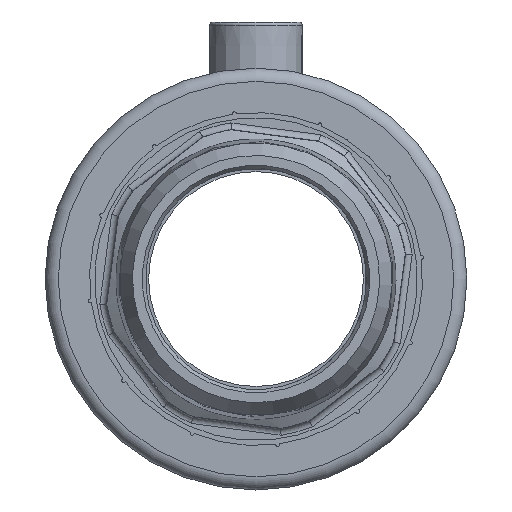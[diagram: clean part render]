
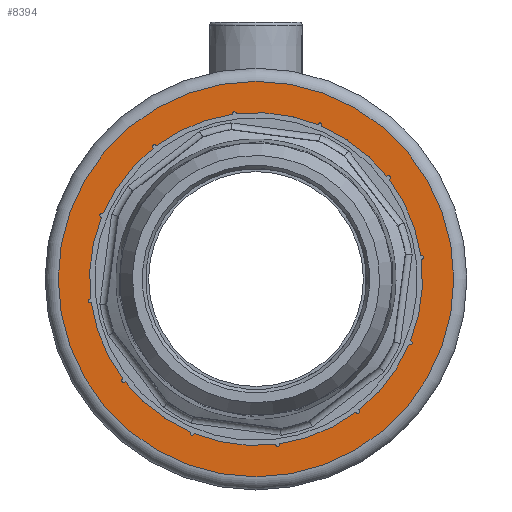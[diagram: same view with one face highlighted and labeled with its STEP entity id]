
A CAD part, left-side view. The second image highlights one B-rep face of the part: STEP entity #8394.
In plain terms, the highlighted planar face has unit normal (-1, 0, 0).
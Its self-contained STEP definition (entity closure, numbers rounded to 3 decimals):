
#891=PLANE('',#10948);
#2993=ORIENTED_EDGE('',*,*,#4367,.F.);
#2994=ORIENTED_EDGE('',*,*,#4569,.F.);
#2995=ORIENTED_EDGE('',*,*,#4558,.F.);
#2996=ORIENTED_EDGE('',*,*,#4553,.F.);
#2997=ORIENTED_EDGE('',*,*,#4542,.F.);
#2998=ORIENTED_EDGE('',*,*,#4539,.F.);
#2999=ORIENTED_EDGE('',*,*,#4528,.F.);
#3000=ORIENTED_EDGE('',*,*,#4523,.F.);
#3001=ORIENTED_EDGE('',*,*,#4512,.F.);
#3002=ORIENTED_EDGE('',*,*,#4509,.F.);
#3003=ORIENTED_EDGE('',*,*,#4498,.F.);
#3004=ORIENTED_EDGE('',*,*,#4493,.F.);
#3005=ORIENTED_EDGE('',*,*,#4478,.F.);
#3006=ORIENTED_EDGE('',*,*,#4475,.F.);
#3007=ORIENTED_EDGE('',*,*,#4447,.F.);
#3008=ORIENTED_EDGE('',*,*,#4442,.F.);
#3009=ORIENTED_EDGE('',*,*,#4430,.F.);
#3010=ORIENTED_EDGE('',*,*,#4427,.F.);
#3011=ORIENTED_EDGE('',*,*,#4415,.F.);
#3012=ORIENTED_EDGE('',*,*,#4410,.F.);
#3013=ORIENTED_EDGE('',*,*,#4398,.F.);
#3014=ORIENTED_EDGE('',*,*,#4395,.F.);
#3015=ORIENTED_EDGE('',*,*,#4383,.F.);
#3016=ORIENTED_EDGE('',*,*,#4378,.F.);
#3017=ORIENTED_EDGE('',*,*,#4965,.T.);
#4367=EDGE_CURVE('',#5653,#5655,#6476,.T.);
#4378=EDGE_CURVE('',#5655,#5665,#6479,.T.);
#4383=EDGE_CURVE('',#5665,#5669,#6481,.T.);
#4395=EDGE_CURVE('',#5669,#5680,#6483,.T.);
#4398=EDGE_CURVE('',#5680,#5682,#6484,.T.);
#4410=EDGE_CURVE('',#5682,#5693,#6487,.T.);
#4415=EDGE_CURVE('',#5693,#5697,#6489,.T.);
#4427=EDGE_CURVE('',#5697,#5708,#6491,.T.);
#4430=EDGE_CURVE('',#5708,#5710,#6492,.T.);
#4442=EDGE_CURVE('',#5710,#5721,#6495,.T.);
#4447=EDGE_CURVE('',#5721,#5725,#6497,.T.);
#4475=EDGE_CURVE('',#5725,#5752,#6509,.T.);
#4478=EDGE_CURVE('',#5752,#5754,#6510,.T.);
#4493=EDGE_CURVE('',#5754,#5768,#6515,.T.);
#4498=EDGE_CURVE('',#5768,#5772,#6517,.T.);
#4509=EDGE_CURVE('',#5772,#5782,#6519,.T.);
#4512=EDGE_CURVE('',#5782,#5784,#6520,.T.);
#4523=EDGE_CURVE('',#5784,#5794,#6523,.T.);
#4528=EDGE_CURVE('',#5794,#5798,#6525,.T.);
#4539=EDGE_CURVE('',#5798,#5808,#6527,.T.);
#4542=EDGE_CURVE('',#5808,#5810,#6528,.T.);
#4553=EDGE_CURVE('',#5810,#5820,#6531,.T.);
#4558=EDGE_CURVE('',#5820,#5824,#6533,.T.);
#4569=EDGE_CURVE('',#5824,#5653,#6535,.T.);
#4965=EDGE_CURVE('',#6036,#6036,#6638,.T.);
#5653=VERTEX_POINT('',#13914);
#5655=VERTEX_POINT('',#13917);
#5665=VERTEX_POINT('',#13955);
#5669=VERTEX_POINT('',#13965);
#5680=VERTEX_POINT('',#14011);
#5682=VERTEX_POINT('',#14020);
#5693=VERTEX_POINT('',#14063);
#5697=VERTEX_POINT('',#14073);
#5708=VERTEX_POINT('',#14119);
#5710=VERTEX_POINT('',#14128);
#5721=VERTEX_POINT('',#14171);
#5725=VERTEX_POINT('',#14181);
#5752=VERTEX_POINT('',#14287);
#5754=VERTEX_POINT('',#14296);
#5768=VERTEX_POINT('',#14350);
#5772=VERTEX_POINT('',#14360);
#5782=VERTEX_POINT('',#14401);
#5784=VERTEX_POINT('',#14410);
#5794=VERTEX_POINT('',#14448);
#5798=VERTEX_POINT('',#14458);
#5808=VERTEX_POINT('',#14499);
#5810=VERTEX_POINT('',#14508);
#5820=VERTEX_POINT('',#14546);
#5824=VERTEX_POINT('',#14556);
#6036=VERTEX_POINT('',#17177);
#6476=CIRCLE('',#10516,25.254);
#6479=CIRCLE('',#10522,0.3);
#6481=CIRCLE('',#10528,25.254);
#6483=CIRCLE('',#10533,0.3);
#6484=CIRCLE('',#10536,25.254);
#6487=CIRCLE('',#10542,0.3);
#6489=CIRCLE('',#10548,25.254);
#6491=CIRCLE('',#10553,0.3);
#6492=CIRCLE('',#10556,25.254);
#6495=CIRCLE('',#10562,0.3);
#6497=CIRCLE('',#10568,25.254);
#6509=CIRCLE('',#10583,0.3);
#6510=CIRCLE('',#10586,25.254);
#6515=CIRCLE('',#10594,0.3);
#6517=CIRCLE('',#10600,25.254);
#6519=CIRCLE('',#10605,0.3);
#6520=CIRCLE('',#10608,25.254);
#6523=CIRCLE('',#10614,0.3);
#6525=CIRCLE('',#10620,25.254);
#6527=CIRCLE('',#10625,0.3);
#6528=CIRCLE('',#10628,25.254);
#6531=CIRCLE('',#10634,0.3);
#6533=CIRCLE('',#10640,25.254);
#6535=CIRCLE('',#10645,0.3);
#6638=CIRCLE('',#10949,30.);
#7135=EDGE_LOOP('',(#2993,#2994,#2995,#2996,#2997,#2998,#2999,#3000,#3001,
#3002,#3003,#3004,#3005,#3006,#3007,#3008,#3009,#3010,#3011,#3012,#3013,
#3014,#3015,#3016));
#7136=EDGE_LOOP('',(#3017));
#7753=FACE_BOUND('',#7135,.T.);
#7754=FACE_BOUND('',#7136,.T.);
#8394=ADVANCED_FACE('',(#7753,#7754),#891,.T.);
#10516=AXIS2_PLACEMENT_3D('',#13916,#11621,#11622);
#10522=AXIS2_PLACEMENT_3D('',#13954,#11635,#11636);
#10528=AXIS2_PLACEMENT_3D('',#13964,#11647,#11648);
#10533=AXIS2_PLACEMENT_3D('',#14010,#11659,#11660);
#10536=AXIS2_PLACEMENT_3D('',#14019,#11665,#11666);
#10542=AXIS2_PLACEMENT_3D('',#14062,#11679,#11680);
#10548=AXIS2_PLACEMENT_3D('',#14072,#11691,#11692);
#10553=AXIS2_PLACEMENT_3D('',#14118,#11703,#11704);
#10556=AXIS2_PLACEMENT_3D('',#14127,#11709,#11710);
#10562=AXIS2_PLACEMENT_3D('',#14170,#11723,#11724);
#10568=AXIS2_PLACEMENT_3D('',#14180,#11735,#11736);
#10583=AXIS2_PLACEMENT_3D('',#14286,#11767,#11768);
#10586=AXIS2_PLACEMENT_3D('',#14295,#11773,#11774);
#10594=AXIS2_PLACEMENT_3D('',#14349,#11791,#11792);
#10600=AXIS2_PLACEMENT_3D('',#14359,#11803,#11804);
#10605=AXIS2_PLACEMENT_3D('',#14400,#11815,#11816);
#10608=AXIS2_PLACEMENT_3D('',#14409,#11821,#11822);
#10614=AXIS2_PLACEMENT_3D('',#14447,#11835,#11836);
#10620=AXIS2_PLACEMENT_3D('',#14457,#11847,#11848);
#10625=AXIS2_PLACEMENT_3D('',#14498,#11859,#11860);
#10628=AXIS2_PLACEMENT_3D('',#14507,#11865,#11866);
#10634=AXIS2_PLACEMENT_3D('',#14545,#11879,#11880);
#10640=AXIS2_PLACEMENT_3D('',#14555,#11891,#11892);
#10645=AXIS2_PLACEMENT_3D('',#14596,#11903,#11904);
#10948=AXIS2_PLACEMENT_3D('',#17175,#12591,#12592);
#10949=AXIS2_PLACEMENT_3D('',#17176,#12593,#12594);
#11621=DIRECTION('',(-1.,0.,0.));
#11622=DIRECTION('',(0.,0.,1.));
#11635=DIRECTION('',(-1.,0.,0.));
#11636=DIRECTION('',(0.,0.,1.));
#11647=DIRECTION('',(-1.,0.,0.));
#11648=DIRECTION('',(0.,0.,1.));
#11659=DIRECTION('',(-1.,0.,0.));
#11660=DIRECTION('',(0.,0.,1.));
#11665=DIRECTION('',(-1.,0.,0.));
#11666=DIRECTION('',(0.,0.,1.));
#11679=DIRECTION('',(-1.,0.,0.));
#11680=DIRECTION('',(0.,0.,1.));
#11691=DIRECTION('',(-1.,0.,0.));
#11692=DIRECTION('',(0.,0.,1.));
#11703=DIRECTION('',(-1.,0.,0.));
#11704=DIRECTION('',(0.,0.,1.));
#11709=DIRECTION('',(-1.,0.,0.));
#11710=DIRECTION('',(0.,0.,1.));
#11723=DIRECTION('',(-1.,0.,0.));
#11724=DIRECTION('',(0.,0.,1.));
#11735=DIRECTION('',(-1.,0.,0.));
#11736=DIRECTION('',(0.,0.,1.));
#11767=DIRECTION('',(-1.,0.,0.));
#11768=DIRECTION('',(0.,0.,1.));
#11773=DIRECTION('',(-1.,0.,0.));
#11774=DIRECTION('',(0.,0.,1.));
#11791=DIRECTION('',(-1.,0.,0.));
#11792=DIRECTION('',(0.,0.,1.));
#11803=DIRECTION('',(-1.,0.,0.));
#11804=DIRECTION('',(0.,0.,1.));
#11815=DIRECTION('',(-1.,0.,0.));
#11816=DIRECTION('',(0.,0.,1.));
#11821=DIRECTION('',(-1.,0.,0.));
#11822=DIRECTION('',(0.,0.,1.));
#11835=DIRECTION('',(-1.,0.,0.));
#11836=DIRECTION('',(0.,0.,1.));
#11847=DIRECTION('',(-1.,0.,0.));
#11848=DIRECTION('',(0.,0.,1.));
#11859=DIRECTION('',(-1.,0.,0.));
#11860=DIRECTION('',(0.,0.,1.));
#11865=DIRECTION('',(-1.,0.,0.));
#11866=DIRECTION('',(0.,0.,1.));
#11879=DIRECTION('',(-1.,0.,0.));
#11880=DIRECTION('',(0.,0.,1.));
#11891=DIRECTION('',(-1.,0.,0.));
#11892=DIRECTION('',(0.,0.,1.));
#11903=DIRECTION('',(-1.,0.,0.));
#11904=DIRECTION('',(0.,0.,1.));
#12591=DIRECTION('',(-1.,0.,0.));
#12592=DIRECTION('',(0.,0.,1.));
#12593=DIRECTION('',(-1.,0.,0.));
#12594=DIRECTION('',(0.,0.,1.));
#13914=CARTESIAN_POINT('',(0.,-3.586,-24.998));
#13916=CARTESIAN_POINT('',(0.,0.,0.));
#13917=CARTESIAN_POINT('',(0.,-15.14,-20.213));
#13954=CARTESIAN_POINT('',(0.,-15.412,-20.086));
#13955=CARTESIAN_POINT('',(0.,-15.605,-19.856));
#13964=CARTESIAN_POINT('',(0.,0.,0.));
#13965=CARTESIAN_POINT('',(0.,-23.218,-9.934));
#14010=CARTESIAN_POINT('',(0.,-23.391,-9.689));
#14011=CARTESIAN_POINT('',(0.,-23.442,-9.393));
#14019=CARTESIAN_POINT('',(0.,0.,0.));
#14020=CARTESIAN_POINT('',(0.,-25.075,3.006));
#14062=CARTESIAN_POINT('',(0.,-25.101,3.305));
#14063=CARTESIAN_POINT('',(0.,-24.998,3.586));
#14072=CARTESIAN_POINT('',(0.,0.,0.));
#14073=CARTESIAN_POINT('',(0.,-20.213,15.141));
#14118=CARTESIAN_POINT('',(0.,-20.086,15.412));
#14119=CARTESIAN_POINT('',(0.,-19.856,15.605));
#14127=CARTESIAN_POINT('',(0.,0.,0.));
#14128=CARTESIAN_POINT('',(0.,-9.934,23.218));
#14170=CARTESIAN_POINT('',(0.,-9.689,23.391));
#14171=CARTESIAN_POINT('',(0.,-9.393,23.442));
#14180=CARTESIAN_POINT('',(0.,0.,0.));
#14181=CARTESIAN_POINT('',(0.,3.006,25.075));
#14286=CARTESIAN_POINT('',(0.,3.305,25.101));
#14287=CARTESIAN_POINT('',(0.,3.586,24.998));
#14295=CARTESIAN_POINT('',(0.,0.,0.));
#14296=CARTESIAN_POINT('',(0.,15.14,20.213));
#14349=CARTESIAN_POINT('',(0.,15.412,20.086));
#14350=CARTESIAN_POINT('',(0.,15.605,19.856));
#14359=CARTESIAN_POINT('',(0.,0.,0.));
#14360=CARTESIAN_POINT('',(0.,23.218,9.934));
#14400=CARTESIAN_POINT('',(0.,23.391,9.689));
#14401=CARTESIAN_POINT('',(0.,23.442,9.393));
#14409=CARTESIAN_POINT('',(0.,0.,0.));
#14410=CARTESIAN_POINT('',(0.,25.075,-3.006));
#14447=CARTESIAN_POINT('',(0.,25.101,-3.305));
#14448=CARTESIAN_POINT('',(0.,24.998,-3.586));
#14457=CARTESIAN_POINT('',(0.,0.,0.));
#14458=CARTESIAN_POINT('',(0.,20.213,-15.141));
#14498=CARTESIAN_POINT('',(0.,20.086,-15.412));
#14499=CARTESIAN_POINT('',(0.,19.856,-15.605));
#14507=CARTESIAN_POINT('',(0.,0.,0.));
#14508=CARTESIAN_POINT('',(0.,9.934,-23.218));
#14545=CARTESIAN_POINT('',(0.,9.689,-23.391));
#14546=CARTESIAN_POINT('',(0.,9.393,-23.442));
#14555=CARTESIAN_POINT('',(0.,0.,0.));
#14556=CARTESIAN_POINT('',(0.,-3.006,-25.075));
#14596=CARTESIAN_POINT('',(0.,-3.305,-25.101));
#17175=CARTESIAN_POINT('',(0.,0.,21.3));
#17176=CARTESIAN_POINT('',(0.,0.,0.));
#17177=CARTESIAN_POINT('',(0.,0.,30.));
